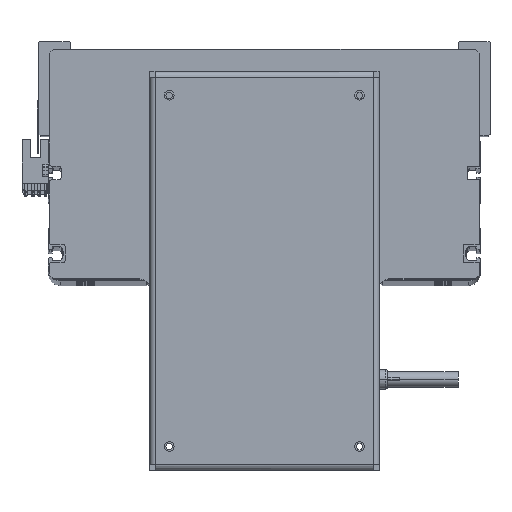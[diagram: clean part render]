
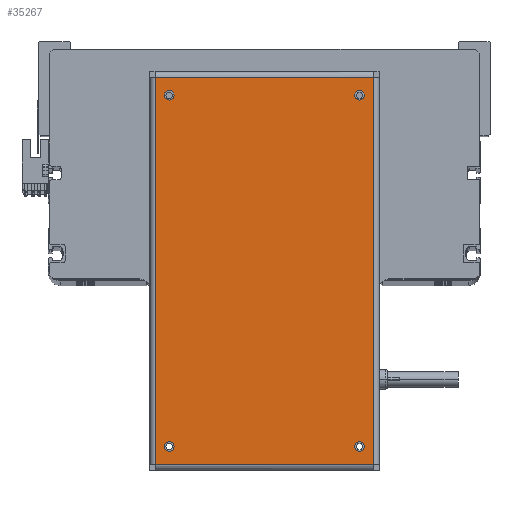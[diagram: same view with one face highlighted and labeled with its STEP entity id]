
A CAD part, top view. The second image highlights one B-rep face of the part: STEP entity #35267.
In plain terms, the highlighted planar face has unit normal (0, 0, 1).
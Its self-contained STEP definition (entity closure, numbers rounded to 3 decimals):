
#100 = CARTESIAN_POINT ( 'NONE',  ( -92.05, 48.5, 0. ) ) ;
#890 = CARTESIAN_POINT ( 'NONE',  ( 98.75, 55.6, 0. ) ) ;
#2143 = EDGE_CURVE ( 'NONE', #29534, #18083, #11355, .T. ) ;
#2463 = CARTESIAN_POINT ( 'NONE',  ( -98.65, 55.6, 0. ) ) ;
#3444 = DIRECTION ( 'NONE',  ( 1., 0., 0. ) ) ;
#3825 = EDGE_CURVE ( 'NONE', #18445, #38557, #22498, .T. ) ;
#4562 = CIRCLE ( 'NONE', #23162, 2.5 ) ;
#4817 = AXIS2_PLACEMENT_3D ( 'NONE', #39394, #6836, #3444 ) ;
#5042 = CIRCLE ( 'NONE', #4817, 2.5 ) ;
#5672 = DIRECTION ( 'NONE',  ( 0., 0., 1. ) ) ;
#5769 = ORIENTED_EDGE ( 'NONE', *, *, #41009, .F. ) ;
#6822 = EDGE_CURVE ( 'NONE', #11432, #13746, #13914, .T. ) ;
#6836 = DIRECTION ( 'NONE',  ( 0., 0., 1. ) ) ;
#7091 = ORIENTED_EDGE ( 'NONE', *, *, #6822, .T. ) ;
#7301 = EDGE_LOOP ( 'NONE', ( #29383, #37560 ) ) ;
#7958 = ORIENTED_EDGE ( 'NONE', *, *, #10191, .F. ) ;
#8250 = EDGE_CURVE ( 'NONE', #30429, #21537, #35686, .T. ) ;
#9024 = CARTESIAN_POINT ( 'NONE',  ( -87.05, 48.5, 0. ) ) ;
#9316 = EDGE_CURVE ( 'NONE', #32075, #30972, #41742, .T. ) ;
#9543 = DIRECTION ( 'NONE',  ( 0., 0., -1. ) ) ;
#9578 = DIRECTION ( 'NONE',  ( 0., 0., 1. ) ) ;
#9618 = ORIENTED_EDGE ( 'NONE', *, *, #23275, .T. ) ;
#9623 = ORIENTED_EDGE ( 'NONE', *, *, #2143, .F. ) ;
#9759 = VERTEX_POINT ( 'NONE', #100 ) ;
#10085 = DIRECTION ( 'NONE',  ( 0., 0., 1. ) ) ;
#10191 = EDGE_CURVE ( 'NONE', #18083, #29534, #5042, .T. ) ;
#10357 = DIRECTION ( 'NONE',  ( 1., 0., 0. ) ) ;
#10577 = FACE_BOUND ( 'NONE', #25312, .T. ) ;
#10723 = CARTESIAN_POINT ( 'NONE',  ( -98.65, 55.6, 0. ) ) ;
#10939 = CARTESIAN_POINT ( 'NONE',  ( 87.05, -48.5, 0. ) ) ;
#11355 = CIRCLE ( 'NONE', #40530, 2.5 ) ;
#11369 = ORIENTED_EDGE ( 'NONE', *, *, #3825, .T. ) ;
#11432 = VERTEX_POINT ( 'NONE', #15655 ) ;
#11665 = ORIENTED_EDGE ( 'NONE', *, *, #9316, .F. ) ;
#12598 = FACE_BOUND ( 'NONE', #37808, .T. ) ;
#13233 = VERTEX_POINT ( 'NONE', #9024 ) ;
#13524 = CARTESIAN_POINT ( 'NONE',  ( -98.65, -55.6, 0. ) ) ;
#13746 = VERTEX_POINT ( 'NONE', #24369 ) ;
#13914 = LINE ( 'NONE', #24527, #22566 ) ;
#14323 = CARTESIAN_POINT ( 'NONE',  ( -89.55, 48.5, 0. ) ) ;
#15161 = AXIS2_PLACEMENT_3D ( 'NONE', #14323, #40606, #20851 ) ;
#15469 = CIRCLE ( 'NONE', #35382, 2.5 ) ;
#15494 = DIRECTION ( 'NONE',  ( 1., 0., 0. ) ) ;
#15655 = CARTESIAN_POINT ( 'NONE',  ( 98.65, -55.6, 0. ) ) ;
#15719 = CARTESIAN_POINT ( 'NONE',  ( -87.05, -48.5, 0. ) ) ;
#16880 = DIRECTION ( 'NONE',  ( 0., 0., 1. ) ) ;
#17318 = DIRECTION ( 'NONE',  ( 1., 0., 0. ) ) ;
#18083 = VERTEX_POINT ( 'NONE', #32812 ) ;
#18445 = VERTEX_POINT ( 'NONE', #2463 ) ;
#19133 = EDGE_CURVE ( 'NONE', #13233, #9759, #21257, .T. ) ;
#19193 = FACE_BOUND ( 'NONE', #30188, .T. ) ;
#19748 = EDGE_CURVE ( 'NONE', #21537, #30429, #33471, .T. ) ;
#20311 = AXIS2_PLACEMENT_3D ( 'NONE', #32572, #16880, #10357 ) ;
#20545 = CARTESIAN_POINT ( 'NONE',  ( -98.75, -55.6, 0. ) ) ;
#20627 = AXIS2_PLACEMENT_3D ( 'NONE', #25893, #10085, #38809 ) ;
#20851 = DIRECTION ( 'NONE',  ( 1., 0., 0. ) ) ;
#21222 = FACE_BOUND ( 'NONE', #7301, .T. ) ;
#21257 = CIRCLE ( 'NONE', #15161, 2.5 ) ;
#21537 = VERTEX_POINT ( 'NONE', #15719 ) ;
#21975 = VECTOR ( 'NONE', #27125, 1000. ) ;
#22498 = LINE ( 'NONE', #10723, #40804 ) ;
#22566 = VECTOR ( 'NONE', #31507, 1000. ) ;
#23162 = AXIS2_PLACEMENT_3D ( 'NONE', #37399, #40902, #34260 ) ;
#23275 = EDGE_CURVE ( 'NONE', #38557, #11432, #31686, .T. ) ;
#23580 = AXIS2_PLACEMENT_3D ( 'NONE', #31871, #5672, #15494 ) ;
#24086 = EDGE_LOOP ( 'NONE', ( #11369, #9618, #7091, #29256 ) ) ;
#24300 = DIRECTION ( 'NONE',  ( 0., 0., 1. ) ) ;
#24369 = CARTESIAN_POINT ( 'NONE',  ( 98.65, 55.6, 0. ) ) ;
#24527 = CARTESIAN_POINT ( 'NONE',  ( 98.65, -55.6, 0. ) ) ;
#25312 = EDGE_LOOP ( 'NONE', ( #9623, #7958 ) ) ;
#25754 = PLANE ( 'NONE',  #41003 ) ;
#25893 = CARTESIAN_POINT ( 'NONE',  ( -89.55, -48.5, 0. ) ) ;
#27125 = DIRECTION ( 'NONE',  ( 1., 0., 0. ) ) ;
#28368 = ORIENTED_EDGE ( 'NONE', *, *, #8250, .F. ) ;
#28900 = EDGE_CURVE ( 'NONE', #9759, #13233, #4562, .T. ) ;
#28966 = ORIENTED_EDGE ( 'NONE', *, *, #19748, .F. ) ;
#29055 = DIRECTION ( 'NONE',  ( -1., 0., 0. ) ) ;
#29256 = ORIENTED_EDGE ( 'NONE', *, *, #37834, .T. ) ;
#29383 = ORIENTED_EDGE ( 'NONE', *, *, #19133, .F. ) ;
#29534 = VERTEX_POINT ( 'NONE', #35621 ) ;
#30035 = LINE ( 'NONE', #890, #35595 ) ;
#30188 = EDGE_LOOP ( 'NONE', ( #5769, #11665 ) ) ;
#30309 = CARTESIAN_POINT ( 'NONE',  ( 89.55, 48.5, 0. ) ) ;
#30429 = VERTEX_POINT ( 'NONE', #32661 ) ;
#30958 = FACE_OUTER_BOUND ( 'NONE', #24086, .T. ) ;
#30972 = VERTEX_POINT ( 'NONE', #41943 ) ;
#31507 = DIRECTION ( 'NONE',  ( 0., 1., 0. ) ) ;
#31686 = LINE ( 'NONE', #20545, #21975 ) ;
#31787 = CARTESIAN_POINT ( 'NONE',  ( 89.55, -48.5, 0. ) ) ;
#31871 = CARTESIAN_POINT ( 'NONE',  ( -89.55, -48.5, 0. ) ) ;
#32075 = VERTEX_POINT ( 'NONE', #10939 ) ;
#32572 = CARTESIAN_POINT ( 'NONE',  ( 89.55, -48.5, 0. ) ) ;
#32661 = CARTESIAN_POINT ( 'NONE',  ( -92.05, -48.5, 0. ) ) ;
#32812 = CARTESIAN_POINT ( 'NONE',  ( 87.05, 48.5, 0. ) ) ;
#33471 = CIRCLE ( 'NONE', #20627, 2.5 ) ;
#34260 = DIRECTION ( 'NONE',  ( 1., 0., 0. ) ) ;
#35267 = ADVANCED_FACE ( 'NONE', ( #12598, #21222, #19193, #10577, #30958 ), #25754, .F. ) ;
#35382 = AXIS2_PLACEMENT_3D ( 'NONE', #31787, #9578, #35737 ) ;
#35419 = CARTESIAN_POINT ( 'NONE',  ( 98.75, 58.5, 0. ) ) ;
#35595 = VECTOR ( 'NONE', #40389, 1000. ) ;
#35621 = CARTESIAN_POINT ( 'NONE',  ( 92.05, 48.5, 0. ) ) ;
#35686 = CIRCLE ( 'NONE', #23580, 2.5 ) ;
#35737 = DIRECTION ( 'NONE',  ( 1., 0., 0. ) ) ;
#37399 = CARTESIAN_POINT ( 'NONE',  ( -89.55, 48.5, 0. ) ) ;
#37560 = ORIENTED_EDGE ( 'NONE', *, *, #28900, .F. ) ;
#37808 = EDGE_LOOP ( 'NONE', ( #28966, #28368 ) ) ;
#37834 = EDGE_CURVE ( 'NONE', #13746, #18445, #30035, .T. ) ;
#38557 = VERTEX_POINT ( 'NONE', #13524 ) ;
#38809 = DIRECTION ( 'NONE',  ( 1., 0., 0. ) ) ;
#39394 = CARTESIAN_POINT ( 'NONE',  ( 89.55, 48.5, 0. ) ) ;
#39562 = DIRECTION ( 'NONE',  ( 0., -1., 0. ) ) ;
#40389 = DIRECTION ( 'NONE',  ( -1., 0., 0. ) ) ;
#40530 = AXIS2_PLACEMENT_3D ( 'NONE', #30309, #24300, #17318 ) ;
#40606 = DIRECTION ( 'NONE',  ( 0., 0., 1. ) ) ;
#40804 = VECTOR ( 'NONE', #39562, 1000. ) ;
#40902 = DIRECTION ( 'NONE',  ( 0., 0., 1. ) ) ;
#41003 = AXIS2_PLACEMENT_3D ( 'NONE', #35419, #9543, #29055 ) ;
#41009 = EDGE_CURVE ( 'NONE', #30972, #32075, #15469, .T. ) ;
#41742 = CIRCLE ( 'NONE', #20311, 2.5 ) ;
#41943 = CARTESIAN_POINT ( 'NONE',  ( 92.05, -48.5, 0. ) ) ;
